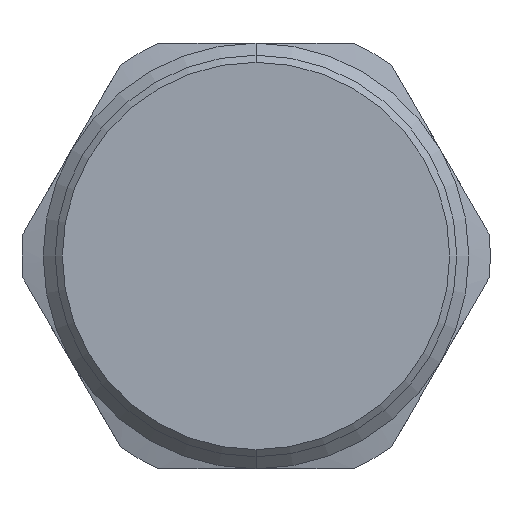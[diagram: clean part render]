
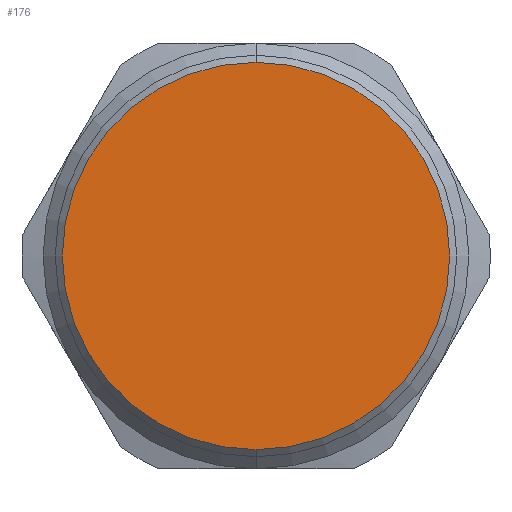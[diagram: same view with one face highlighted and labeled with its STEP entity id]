
A CAD part, front view. The second image highlights one B-rep face of the part: STEP entity #176.
In plain terms, the highlighted planar face has unit normal (0, -1, 0).
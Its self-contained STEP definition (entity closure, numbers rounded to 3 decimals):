
#151=CARTESIAN_POINT('',(0.0,-20.0,13.65));
#152=VERTEX_POINT('',#151);
#153=CARTESIAN_POINT('',(0.0,-20.0,-13.65));
#154=VERTEX_POINT('',#153);
#155=CARTESIAN_POINT('',(0.0,-20.0,0.0));
#156=DIRECTION('',(0.0,-1.0,0.0));
#157=DIRECTION('',(0.0,0.0,1.0));
#158=AXIS2_PLACEMENT_3D('',#155,#156,#157);
#159=CIRCLE('',#158,13.65);
#160=EDGE_CURVE('no 703',#152,#154,#159,.T.);
#161=ORIENTED_EDGE('',*,*,#160,.T.);
#162=CARTESIAN_POINT('',(0.0,-20.0,0.0));
#163=DIRECTION('',(0.0,-1.0,0.0));
#164=DIRECTION('',(0.0,0.0,1.0));
#165=AXIS2_PLACEMENT_3D('',#162,#163,#164);
#166=CIRCLE('',#165,13.65);
#167=EDGE_CURVE('no 707',#154,#152,#166,.T.);
#168=ORIENTED_EDGE('',*,*,#167,.T.);
#169=EDGE_LOOP('',(#161,#168));
#170=FACE_OUTER_BOUND('',#169,.T.);
#171=CARTESIAN_POINT('',(0.0,-20.0,0.0));
#172=DIRECTION('',(0.0,1.0,0.0));
#173=DIRECTION('',(0.0,0.0,1.0));
#174=AXIS2_PLACEMENT_3D('',#171,#172,#173);
#175=PLANE('',#174);
#176=ADVANCED_FACE('no 694',(#170),#175,.F.);
